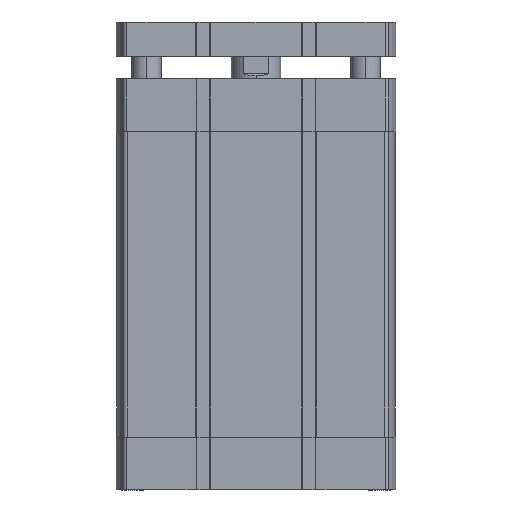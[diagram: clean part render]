
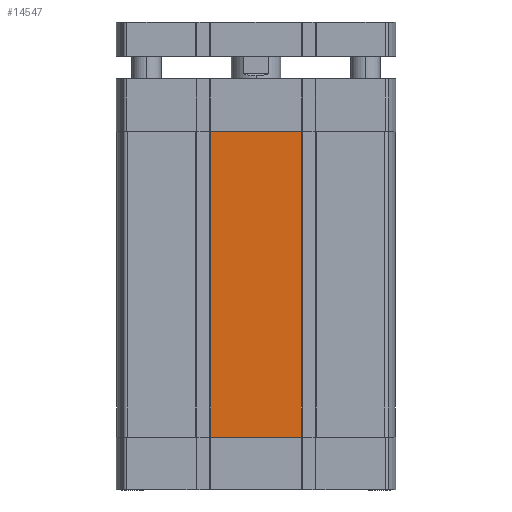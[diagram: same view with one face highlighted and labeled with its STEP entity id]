
A CAD part, front view. The second image highlights one B-rep face of the part: STEP entity #14547.
In plain terms, the highlighted planar face has unit normal (0, -1, 0) as drawn and (-1, 0, 0) by its records, which use the part's own axes.
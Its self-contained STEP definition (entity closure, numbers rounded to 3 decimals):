
#3 = CARTESIAN_POINT ( 'NONE',  ( -56.5, 18.345, -145.5 ) ) ;
#1013 = EDGE_CURVE ( 'NONE', #8927, #15923, #15870, .T. ) ;
#1133 = EDGE_CURVE ( 'NONE', #23298, #8927, #14650, .T. ) ;
#1484 = ORIENTED_EDGE ( 'NONE', *, *, #1133, .T. ) ;
#1860 = CARTESIAN_POINT ( 'NONE',  ( -56.5, -18.345, -145.5 ) ) ;
#1989 = DIRECTION ( 'NONE',  ( -1., 0., 0. ) ) ;
#2600 = ORIENTED_EDGE ( 'NONE', *, *, #14752, .T. ) ;
#2677 = CARTESIAN_POINT ( 'NONE',  ( -56.5, 18.345, -145.5 ) ) ;
#2918 = VECTOR ( 'NONE', #8937, 1000. ) ;
#4045 = VECTOR ( 'NONE', #8545, 1000. ) ;
#4115 = CARTESIAN_POINT ( 'NONE',  ( -56.5, -18.345, -21.5 ) ) ;
#4145 = AXIS2_PLACEMENT_3D ( 'NONE', #3, #1989, #15795 ) ;
#4528 = CARTESIAN_POINT ( 'NONE',  ( -56.5, 18.345, -145.5 ) ) ;
#5479 = LINE ( 'NONE', #1860, #10713 ) ;
#8366 = FACE_OUTER_BOUND ( 'NONE', #15439, .T. ) ;
#8545 = DIRECTION ( 'NONE',  ( 0., -1., 0. ) ) ;
#8841 = CARTESIAN_POINT ( 'NONE',  ( -56.5, -18.545, -21.5 ) ) ;
#8927 = VERTEX_POINT ( 'NONE', #17771 ) ;
#8937 = DIRECTION ( 'NONE',  ( 0., 1., 0. ) ) ;
#9481 = EDGE_CURVE ( 'NONE', #20701, #23298, #5479, .T. ) ;
#10713 = VECTOR ( 'NONE', #15665, 1000. ) ;
#11897 = PLANE ( 'NONE',  #4145 ) ;
#12300 = ORIENTED_EDGE ( 'NONE', *, *, #1013, .T. ) ;
#14547 = ADVANCED_FACE ( 'NONE', ( #8366 ), #11897, .T. ) ;
#14650 = LINE ( 'NONE', #8841, #2918 ) ;
#14752 = EDGE_CURVE ( 'NONE', #15923, #20701, #24293, .T. ) ;
#15439 = EDGE_LOOP ( 'NONE', ( #2600, #17873, #1484, #12300 ) ) ;
#15665 = DIRECTION ( 'NONE',  ( 0., 0., 1. ) ) ;
#15795 = DIRECTION ( 'NONE',  ( 0., 0., 1. ) ) ;
#15870 = LINE ( 'NONE', #22963, #19882 ) ;
#15923 = VERTEX_POINT ( 'NONE', #4528 ) ;
#16843 = DIRECTION ( 'NONE',  ( 0., 0., -1. ) ) ;
#17771 = CARTESIAN_POINT ( 'NONE',  ( -56.5, 18.345, -21.5 ) ) ;
#17873 = ORIENTED_EDGE ( 'NONE', *, *, #9481, .T. ) ;
#19882 = VECTOR ( 'NONE', #16843, 1000. ) ;
#20701 = VERTEX_POINT ( 'NONE', #24726 ) ;
#22963 = CARTESIAN_POINT ( 'NONE',  ( -56.5, 18.345, -145.5 ) ) ;
#23298 = VERTEX_POINT ( 'NONE', #4115 ) ;
#24293 = LINE ( 'NONE', #2677, #4045 ) ;
#24726 = CARTESIAN_POINT ( 'NONE',  ( -56.5, -18.345, -145.5 ) ) ;
